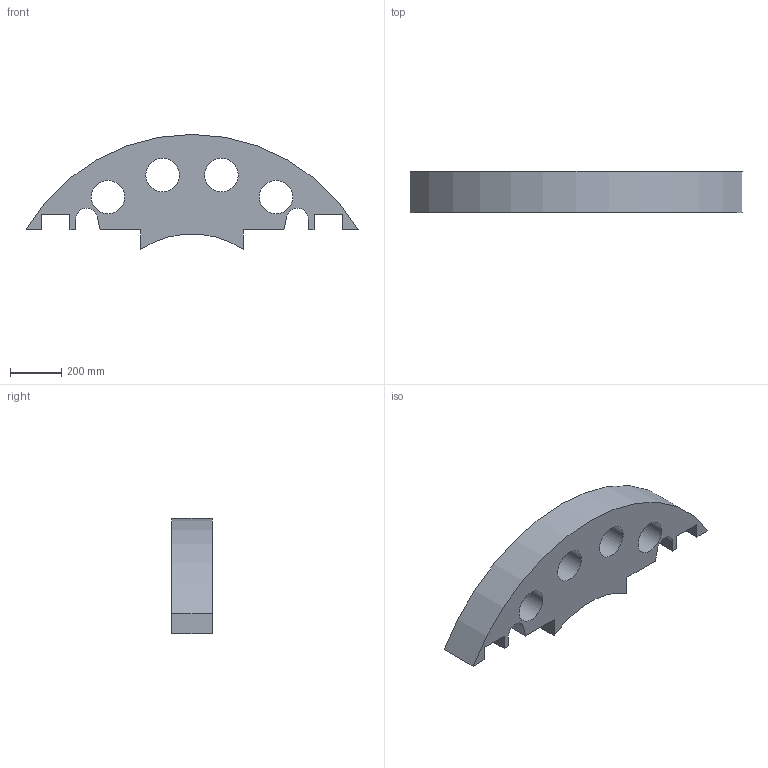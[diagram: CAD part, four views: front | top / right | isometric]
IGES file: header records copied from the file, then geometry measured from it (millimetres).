
Start section:  PTC IGES file: bpb_front_plate_af0.igs
Global section: file name: bpb_front_plate_af0.igs; native system: Pro/ENGINEER by Parametric Technology Corporation; preprocessor: 1999260; author: oshatz; organization: Unknown; date: 000922.101838; units: millimetre
Bounding box: 1290.94 x 159 x 447.7 mm (x, y, z)
Surface area: 1366485.6 mm2 (no closed solid volume)
Topology: 0 solids, 0 shells, 32 faces, 180 edges, 180 vertices
Faces by surface type: bspline 20, revolution 12
